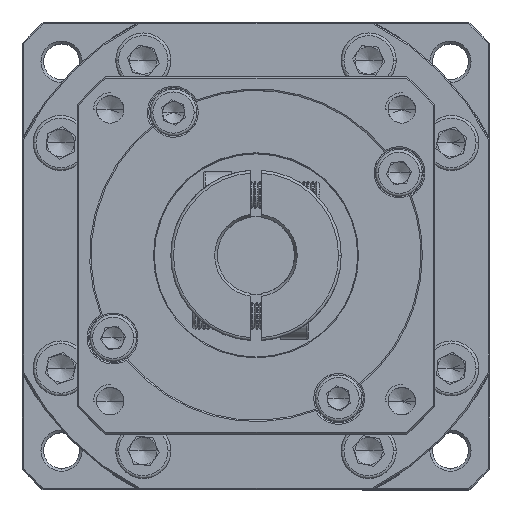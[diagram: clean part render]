
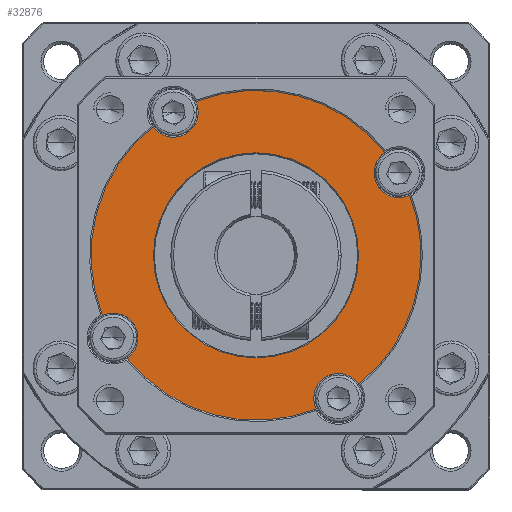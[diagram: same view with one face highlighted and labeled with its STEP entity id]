
A CAD part, top view. The second image highlights one B-rep face of the part: STEP entity #32876.
In plain terms, the highlighted planar face has unit normal (0, 0, 1).
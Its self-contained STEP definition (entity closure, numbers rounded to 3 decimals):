
#1526 = ORIENTED_EDGE ( 'NONE', *, *, #47562, .T. ) ;
#1757 = CIRCLE ( 'NONE', #16001, 30. ) ;
#3309 = CARTESIAN_POINT ( 'NONE',  ( -54.894, -7.935, 4.648 ) ) ;
#4901 = ORIENTED_EDGE ( 'NONE', *, *, #80378, .F. ) ;
#5331 = EDGE_CURVE ( 'NONE', #77001, #84345, #23443, .T. ) ;
#5849 = DIRECTION ( 'NONE',  ( 1., 0., 0. ) ) ;
#5861 = DIRECTION ( 'NONE',  ( 0., 0., 1. ) ) ;
#6851 = CIRCLE ( 'NONE', #23898, 4.5 ) ;
#6911 = CARTESIAN_POINT ( 'NONE',  ( -65.839, 19.997, 4.648 ) ) ;
#7759 = AXIS2_PLACEMENT_3D ( 'NONE', #10414, #74453, #19645 ) ;
#8038 = DIRECTION ( 'NONE',  ( 0., 0., 1. ) ) ;
#10065 = CARTESIAN_POINT ( 'NONE',  ( -76.784, 47.929, 4.648 ) ) ;
#10414 = CARTESIAN_POINT ( 'NONE',  ( -39.859, 34.997, 4.648 ) ) ;
#10795 = CIRCLE ( 'NONE', #7759, 4.5 ) ;
#12879 = CARTESIAN_POINT ( 'NONE',  ( -80.839, 45.978, 4.648 ) ) ;
#13010 = ORIENTED_EDGE ( 'NONE', *, *, #82711, .T. ) ;
#13014 = CIRCLE ( 'NONE', #38758, 4.5 ) ;
#13052 = CARTESIAN_POINT ( 'NONE',  ( -37.907, 30.942, 4.648 ) ) ;
#14768 = ORIENTED_EDGE ( 'NONE', *, *, #81822, .F. ) ;
#16001 = AXIS2_PLACEMENT_3D ( 'NONE', #90772, #36122, #99920 ) ;
#16161 = DIRECTION ( 'NONE',  ( 1., 0., 0. ) ) ;
#16251 = ORIENTED_EDGE ( 'NONE', *, *, #59392, .F. ) ;
#17402 = CARTESIAN_POINT ( 'NONE',  ( -50.839, -5.983, 4.648 ) ) ;
#17617 = CARTESIAN_POINT ( 'NONE',  ( -84.557, 43.442, 4.648 ) ) ;
#18254 = EDGE_CURVE ( 'NONE', #82190, #114956, #81361, .T. ) ;
#18821 = AXIS2_PLACEMENT_3D ( 'NONE', #31781, #95704, #41018 ) ;
#19645 = DIRECTION ( 'NONE',  ( 1., 0., 0. ) ) ;
#21228 = FACE_OUTER_BOUND ( 'NONE', #96614, .T. ) ;
#21372 = DIRECTION ( 'NONE',  ( 0., 0., 1. ) ) ;
#21529 = CARTESIAN_POINT ( 'NONE',  ( -93.771, 9.052, 4.648 ) ) ;
#21639 = EDGE_CURVE ( 'NONE', #76284, #113629, #39412, .T. ) ;
#22077 = DIRECTION ( 'NONE',  ( 1., 0., 0. ) ) ;
#23186 = CARTESIAN_POINT ( 'NONE',  ( -65.839, 19.997, 4.648 ) ) ;
#23443 = CIRCLE ( 'NONE', #99910, 18.644 ) ;
#23898 = AXIS2_PLACEMENT_3D ( 'NONE', #115408, #60814, #5849 ) ;
#26566 = ORIENTED_EDGE ( 'NONE', *, *, #63556, .F. ) ;
#26691 = DIRECTION ( 'NONE',  ( 1., 0., 0. ) ) ;
#27184 = AXIS2_PLACEMENT_3D ( 'NONE', #52212, #115971, #61383 ) ;
#27448 = CARTESIAN_POINT ( 'NONE',  ( -84.484, 19.997, 4.648 ) ) ;
#29671 = CIRCLE ( 'NONE', #30185, 4.5 ) ;
#30185 = AXIS2_PLACEMENT_3D ( 'NONE', #40310, #104193, #49574 ) ;
#31781 = CARTESIAN_POINT ( 'NONE',  ( -65.839, 19.997, 4.648 ) ) ;
#31910 = PLANE ( 'NONE',  #59653 ) ;
#32076 = ORIENTED_EDGE ( 'NONE', *, *, #60185, .T. ) ;
#32308 = CARTESIAN_POINT ( 'NONE',  ( -65.839, 19.997, 4.648 ) ) ;
#32449 = DIRECTION ( 'NONE',  ( 1., 0., 0. ) ) ;
#32876 = ADVANCED_FACE ( 'NONE', ( #91335, #21228 ), #31910, .T. ) ;
#34119 = EDGE_CURVE ( 'NONE', #97168, #114956, #114691, .T. ) ;
#36069 = AXIS2_PLACEMENT_3D ( 'NONE', #17402, #81473, #26691 ) ;
#36122 = DIRECTION ( 'NONE',  ( 0., 0., 1. ) ) ;
#38758 = AXIS2_PLACEMENT_3D ( 'NONE', #60828, #5861, #69980 ) ;
#39412 = CIRCLE ( 'NONE', #36069, 4.5 ) ;
#39882 = DIRECTION ( 'NONE',  ( 0., 0., 1. ) ) ;
#40310 = CARTESIAN_POINT ( 'NONE',  ( -80.839, 45.978, 4.648 ) ) ;
#41018 = DIRECTION ( 'NONE',  ( 1., 0., 0. ) ) ;
#41527 = DIRECTION ( 'NONE',  ( 1., 0., 0. ) ) ;
#42958 = CIRCLE ( 'NONE', #106937, 30. ) ;
#45120 = DIRECTION ( 'NONE',  ( 0., 0., 1. ) ) ;
#47562 = EDGE_CURVE ( 'NONE', #65002, #80746, #1757, .T. ) ;
#49046 = CARTESIAN_POINT ( 'NONE',  ( -47.195, 19.997, 4.648 ) ) ;
#49574 = DIRECTION ( 'NONE',  ( 1., 0., 0. ) ) ;
#52212 = CARTESIAN_POINT ( 'NONE',  ( -65.839, 19.997, 4.648 ) ) ;
#56694 = VERTEX_POINT ( 'NONE', #10065 ) ;
#57020 = EDGE_CURVE ( 'NONE', #111341, #65002, #63944, .T. ) ;
#59392 = EDGE_CURVE ( 'NONE', #97168, #86400, #29671, .T. ) ;
#59585 = CARTESIAN_POINT ( 'NONE',  ( -76.339, 45.978, 4.648 ) ) ;
#59653 = AXIS2_PLACEMENT_3D ( 'NONE', #32308, #96201, #41527 ) ;
#60185 = EDGE_CURVE ( 'NONE', #87180, #113629, #89559, .T. ) ;
#60814 = DIRECTION ( 'NONE',  ( 0., 0., 1. ) ) ;
#60828 = CARTESIAN_POINT ( 'NONE',  ( -91.82, 4.997, 4.648 ) ) ;
#61383 = DIRECTION ( 'NONE',  ( 1., 0., 0. ) ) ;
#62927 = CARTESIAN_POINT ( 'NONE',  ( -91.82, 4.997, 4.648 ) ) ;
#63556 = EDGE_CURVE ( 'NONE', #111341, #76284, #6851, .T. ) ;
#63944 = CIRCLE ( 'NONE', #114828, 30. ) ;
#64072 = CIRCLE ( 'NONE', #111081, 4.5 ) ;
#65002 = VERTEX_POINT ( 'NONE', #97279 ) ;
#67311 = ORIENTED_EDGE ( 'NONE', *, *, #77188, .T. ) ;
#67496 = CARTESIAN_POINT ( 'NONE',  ( -47.122, -3.447, 4.648 ) ) ;
#68159 = AXIS2_PLACEMENT_3D ( 'NONE', #62927, #8038, #72119 ) ;
#69980 = DIRECTION ( 'NONE',  ( 1., 0., 0. ) ) ;
#71027 = DIRECTION ( 'NONE',  ( 0., 0., 1. ) ) ;
#72119 = DIRECTION ( 'NONE',  ( 1., 0., 0. ) ) ;
#72331 = EDGE_LOOP ( 'NONE', ( #13010, #117770 ) ) ;
#74363 = EDGE_CURVE ( 'NONE', #86400, #56694, #81327, .T. ) ;
#74453 = DIRECTION ( 'NONE',  ( 0., 0., 1. ) ) ;
#75799 = CARTESIAN_POINT ( 'NONE',  ( -42.395, 38.715, 4.648 ) ) ;
#76168 = CARTESIAN_POINT ( 'NONE',  ( -65.839, 19.997, 4.648 ) ) ;
#76284 = VERTEX_POINT ( 'NONE', #107160 ) ;
#76895 = DIRECTION ( 'NONE',  ( 0., 0., 1. ) ) ;
#77001 = VERTEX_POINT ( 'NONE', #27448 ) ;
#77188 = EDGE_CURVE ( 'NONE', #113560, #56694, #42958, .T. ) ;
#77610 = ORIENTED_EDGE ( 'NONE', *, *, #57020, .T. ) ;
#79848 = EDGE_CURVE ( 'NONE', #84991, #80746, #64072, .T. ) ;
#80378 = EDGE_CURVE ( 'NONE', #113560, #84991, #10795, .T. ) ;
#80420 = AXIS2_PLACEMENT_3D ( 'NONE', #76168, #21372, #85366 ) ;
#80746 = VERTEX_POINT ( 'NONE', #13052 ) ;
#81327 = CIRCLE ( 'NONE', #110353, 4.5 ) ;
#81361 = CIRCLE ( 'NONE', #68159, 4.5 ) ;
#81473 = DIRECTION ( 'NONE',  ( 0., 0., 1. ) ) ;
#81703 = CIRCLE ( 'NONE', #18821, 18.644 ) ;
#81822 = EDGE_CURVE ( 'NONE', #87180, #82190, #13014, .T. ) ;
#82190 = VERTEX_POINT ( 'NONE', #95836 ) ;
#82711 = EDGE_CURVE ( 'NONE', #84345, #77001, #81703, .T. ) ;
#84345 = VERTEX_POINT ( 'NONE', #49046 ) ;
#84991 = VERTEX_POINT ( 'NONE', #96712 ) ;
#85366 = DIRECTION ( 'NONE',  ( 1., 0., 0. ) ) ;
#86400 = VERTEX_POINT ( 'NONE', #59585 ) ;
#87150 = DIRECTION ( 'NONE',  ( 0., 0., -1. ) ) ;
#87180 = VERTEX_POINT ( 'NONE', #91315 ) ;
#87909 = ORIENTED_EDGE ( 'NONE', *, *, #74363, .F. ) ;
#89559 = CIRCLE ( 'NONE', #27184, 30. ) ;
#90772 = CARTESIAN_POINT ( 'NONE',  ( -65.839, 19.997, 4.648 ) ) ;
#91315 = CARTESIAN_POINT ( 'NONE',  ( -89.284, 1.28, 4.648 ) ) ;
#91335 = FACE_BOUND ( 'NONE', #72331, .T. ) ;
#93703 = ORIENTED_EDGE ( 'NONE', *, *, #21639, .F. ) ;
#94552 = CARTESIAN_POINT ( 'NONE',  ( -65.839, 19.997, 4.648 ) ) ;
#95704 = DIRECTION ( 'NONE',  ( 0., 0., -1. ) ) ;
#95836 = CARTESIAN_POINT ( 'NONE',  ( -87.32, 4.997, 4.648 ) ) ;
#96201 = DIRECTION ( 'NONE',  ( 0., 0., 1. ) ) ;
#96614 = EDGE_LOOP ( 'NONE', ( #14768, #32076, #93703, #26566, #77610, #1526, #109714, #4901, #67311, #87909, #16251, #115762, #111938 ) ) ;
#96712 = CARTESIAN_POINT ( 'NONE',  ( -44.359, 34.997, 4.648 ) ) ;
#97168 = VERTEX_POINT ( 'NONE', #17617 ) ;
#97279 = CARTESIAN_POINT ( 'NONE',  ( -35.839, 19.997, 4.648 ) ) ;
#99755 = CARTESIAN_POINT ( 'NONE',  ( -39.859, 34.997, 4.648 ) ) ;
#99910 = AXIS2_PLACEMENT_3D ( 'NONE', #23186, #87150, #32449 ) ;
#99920 = DIRECTION ( 'NONE',  ( 1., 0., 0. ) ) ;
#103743 = DIRECTION ( 'NONE',  ( 1., 0., 0. ) ) ;
#104193 = DIRECTION ( 'NONE',  ( 0., 0., 1. ) ) ;
#106937 = AXIS2_PLACEMENT_3D ( 'NONE', #94552, #39882, #103743 ) ;
#107160 = CARTESIAN_POINT ( 'NONE',  ( -55.339, -5.983, 4.648 ) ) ;
#108937 = DIRECTION ( 'NONE',  ( 1., 0., 0. ) ) ;
#109714 = ORIENTED_EDGE ( 'NONE', *, *, #79848, .F. ) ;
#110353 = AXIS2_PLACEMENT_3D ( 'NONE', #12879, #76895, #22077 ) ;
#111081 = AXIS2_PLACEMENT_3D ( 'NONE', #99755, #45120, #108937 ) ;
#111341 = VERTEX_POINT ( 'NONE', #67496 ) ;
#111938 = ORIENTED_EDGE ( 'NONE', *, *, #18254, .F. ) ;
#113560 = VERTEX_POINT ( 'NONE', #75799 ) ;
#113629 = VERTEX_POINT ( 'NONE', #3309 ) ;
#114691 = CIRCLE ( 'NONE', #80420, 30. ) ;
#114828 = AXIS2_PLACEMENT_3D ( 'NONE', #6911, #71027, #16161 ) ;
#114956 = VERTEX_POINT ( 'NONE', #21529 ) ;
#115408 = CARTESIAN_POINT ( 'NONE',  ( -50.839, -5.983, 4.648 ) ) ;
#115762 = ORIENTED_EDGE ( 'NONE', *, *, #34119, .T. ) ;
#115971 = DIRECTION ( 'NONE',  ( 0., 0., 1. ) ) ;
#117770 = ORIENTED_EDGE ( 'NONE', *, *, #5331, .T. ) ;
